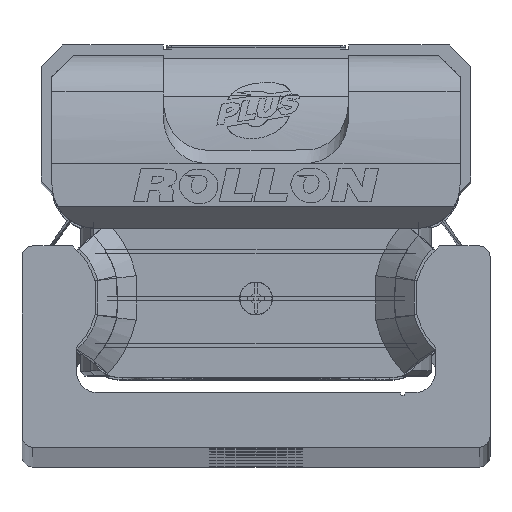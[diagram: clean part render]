
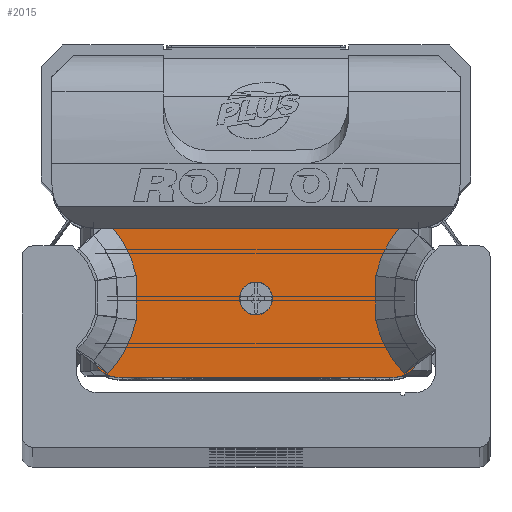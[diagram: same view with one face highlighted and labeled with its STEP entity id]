
A CAD part, top view. The second image highlights one B-rep face of the part: STEP entity #2015.
In plain terms, the highlighted planar face has unit normal (0, 0, 1) as drawn and (0, 0, -1) by its records, which use the part's own axes.
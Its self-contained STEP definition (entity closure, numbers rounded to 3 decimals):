
#2015 = ADVANCED_FACE( '', ( #4201, #4202 ), #4203, .F. );
#4201 = FACE_BOUND( '', #6561, .T. );
#4202 = FACE_OUTER_BOUND( '', #6562, .T. );
#4203 = PLANE( '', #6563 );
#6561 = EDGE_LOOP( '', ( #11852 ) );
#6562 = EDGE_LOOP( '', ( #11853, #11854, #11855, #11856, #11857, #11858, #11859, #11860, #11861, #11862, #11863, #11864 ) );
#6563 = AXIS2_PLACEMENT_3D( '', #11865, #11866, #11867 );
#11852 = ORIENTED_EDGE( '', *, *, #14401, .T. );
#11853 = ORIENTED_EDGE( '', *, *, #13040, .T. );
#11854 = ORIENTED_EDGE( '', *, *, #13685, .F. );
#11855 = ORIENTED_EDGE( '', *, *, #14650, .T. );
#11856 = ORIENTED_EDGE( '', *, *, #14532, .F. );
#11857 = ORIENTED_EDGE( '', *, *, #14334, .T. );
#11858 = ORIENTED_EDGE( '', *, *, #12613, .T. );
#11859 = ORIENTED_EDGE( '', *, *, #13014, .T. );
#11860 = ORIENTED_EDGE( '', *, *, #12953, .T. );
#11861 = ORIENTED_EDGE( '', *, *, #14587, .T. );
#11862 = ORIENTED_EDGE( '', *, *, #13146, .T. );
#11863 = ORIENTED_EDGE( '', *, *, #14636, .T. );
#11864 = ORIENTED_EDGE( '', *, *, #14044, .T. );
#11865 = CARTESIAN_POINT( '', ( 14.9, 7.35, -13.25 ) );
#11866 = DIRECTION( '', ( 0., 0., 1. ) );
#11867 = DIRECTION( '', ( 1., 0., 0. ) );
#12613 = EDGE_CURVE( '', #14934, #14932, #14935, .T. );
#12953 = EDGE_CURVE( '', #15535, #15532, #15536, .T. );
#13014 = EDGE_CURVE( '', #14932, #15535, #15635, .T. );
#13040 = EDGE_CURVE( '', #15679, #15677, #15680, .T. );
#13146 = EDGE_CURVE( '', #15847, #15853, #15855, .T. );
#13685 = EDGE_CURVE( '', #16718, #15677, #16720, .T. );
#14044 = EDGE_CURVE( '', #17217, #15679, #17218, .T. );
#14334 = EDGE_CURVE( '', #14902, #14934, #17599, .T. );
#14401 = EDGE_CURVE( '', #17682, #17682, #17683, .T. );
#14532 = EDGE_CURVE( '', #14902, #17837, #17838, .T. );
#14587 = EDGE_CURVE( '', #15532, #15847, #17899, .T. );
#14636 = EDGE_CURVE( '', #15853, #17217, #17955, .T. );
#14650 = EDGE_CURVE( '', #16718, #17837, #17971, .T. );
#14902 = VERTEX_POINT( '', #18304 );
#14932 = VERTEX_POINT( '', #18346 );
#14934 = VERTEX_POINT( '', #18349 );
#14935 = B_SPLINE_CURVE_WITH_KNOTS( '', 2, ( #18350, #18351, #18352, #18353, #18354 ), .UNSPECIFIED., .F., .F., ( 3, 2, 3 ), ( 0., 0.5, 1. ), .UNSPECIFIED. );
#15532 = VERTEX_POINT( '', #19185 );
#15535 = VERTEX_POINT( '', #19191 );
#15536 = B_SPLINE_CURVE_WITH_KNOTS( '', 2, ( #19192, #19193, #19194, #19195, #19196 ), .UNSPECIFIED., .F., .F., ( 3, 2, 3 ), ( 0., 0.5, 0.868 ), .UNSPECIFIED. );
#15635 = B_SPLINE_CURVE_WITH_KNOTS( '', 2, ( #19345, #19346, #19347 ), .UNSPECIFIED., .F., .F., ( 3, 3 ), ( 0., 1. ), .UNSPECIFIED. );
#15677 = VERTEX_POINT( '', #19401 );
#15679 = VERTEX_POINT( '', #19404 );
#15680 = B_SPLINE_CURVE_WITH_KNOTS( '', 1, ( #19405, #19406 ), .UNSPECIFIED., .F., .F., ( 2, 2 ), ( 0., 1. ), .UNSPECIFIED. );
#15847 = VERTEX_POINT( '', #19638 );
#15853 = VERTEX_POINT( '', #19651 );
#15855 = B_SPLINE_CURVE_WITH_KNOTS( '', 2, ( #19654, #19655, #19656, #19657, #19658 ), .UNSPECIFIED., .F., .F., ( 3, 2, 3 ), ( 0.133, 0.5, 1. ), .UNSPECIFIED. );
#16718 = VERTEX_POINT( '', #20799 );
#16720 = CIRCLE( '', #20802, 2.5 );
#17217 = VERTEX_POINT( '', #21495 );
#17218 = B_SPLINE_CURVE_WITH_KNOTS( '', 2, ( #21496, #21497, #21498, #21499, #21500 ), .UNSPECIFIED., .F., .F., ( 3, 2, 3 ), ( 0., 0.5, 1. ), .UNSPECIFIED. );
#17599 = B_SPLINE_CURVE_WITH_KNOTS( '', 1, ( #22162, #22163 ), .UNSPECIFIED., .F., .F., ( 2, 2 ), ( 0., 1. ), .UNSPECIFIED. );
#17682 = VERTEX_POINT( '', #22271 );
#17683 = CIRCLE( '', #22272, 1.5 );
#17837 = VERTEX_POINT( '', #22461 );
#17838 = CIRCLE( '', #22462, 2.5 );
#17899 = LINE( '', #22537, #22538 );
#17955 = B_SPLINE_CURVE_WITH_KNOTS( '', 2, ( #22603, #22604, #22605 ), .UNSPECIFIED., .F., .F., ( 3, 3 ), ( 0., 1. ), .UNSPECIFIED. );
#17971 = LINE( '', #22624, #22625 );
#18304 = CARTESIAN_POINT( '', ( -14.904, -5.718, -13.25 ) );
#18346 = CARTESIAN_POINT( '', ( -11.012, -2.045, -13.25 ) );
#18349 = CARTESIAN_POINT( '', ( -13.628, -6.965, -13.25 ) );
#18350 = CARTESIAN_POINT( '', ( -13.628, -6.965, -13.25 ) );
#18351 = CARTESIAN_POINT( '', ( -12.638, -5.946, -13.25 ) );
#18352 = CARTESIAN_POINT( '', ( -11.97, -4.691, -13.25 ) );
#18353 = CARTESIAN_POINT( '', ( -11.303, -3.437, -13.25 ) );
#18354 = CARTESIAN_POINT( '', ( -11.012, -2.045, -13.25 ) );
#19185 = CARTESIAN_POINT( '', ( -13.119, 6.4, -13.25 ) );
#19191 = CARTESIAN_POINT( '', ( -11.012, 2.045, -13.25 ) );
#19192 = CARTESIAN_POINT( '', ( -11.012, 2.045, -13.25 ) );
#19193 = CARTESIAN_POINT( '', ( -11.302, 3.432, -13.25 ) );
#19194 = CARTESIAN_POINT( '', ( -11.967, 4.685, -13.25 ) );
#19195 = CARTESIAN_POINT( '', ( -12.456, 5.606, -13.25 ) );
#19196 = CARTESIAN_POINT( '', ( -13.119, 6.4, -13.25 ) );
#19345 = CARTESIAN_POINT( '', ( -11.012, -2.045, -13.25 ) );
#19346 = CARTESIAN_POINT( '', ( -10.888, 0., -13.25 ) );
#19347 = CARTESIAN_POINT( '', ( -11.012, 2.045, -13.25 ) );
#19401 = CARTESIAN_POINT( '', ( 14.906, -5.717, -13.25 ) );
#19404 = CARTESIAN_POINT( '', ( 13.628, -6.965, -13.25 ) );
#19405 = CARTESIAN_POINT( '', ( 13.628, -6.965, -13.25 ) );
#19406 = CARTESIAN_POINT( '', ( 14.9, -5.728, -13.25 ) );
#19638 = CARTESIAN_POINT( '', ( 13.12, 6.4, -13.25 ) );
#19651 = CARTESIAN_POINT( '', ( 11.012, 2.045, -13.25 ) );
#19654 = CARTESIAN_POINT( '', ( 13.119, 6.4, -13.25 ) );
#19655 = CARTESIAN_POINT( '', ( 12.459, 5.608, -13.25 ) );
#19656 = CARTESIAN_POINT( '', ( 11.968, 4.684, -13.25 ) );
#19657 = CARTESIAN_POINT( '', ( 11.301, 3.427, -13.25 ) );
#19658 = CARTESIAN_POINT( '', ( 11.012, 2.045, -13.25 ) );
#20799 = CARTESIAN_POINT( '', ( 12.58, -7.3, -13.25 ) );
#20802 = AXIS2_PLACEMENT_3D( '', #24378, #24379, #24380 );
#21495 = CARTESIAN_POINT( '', ( 11.012, -2.045, -13.25 ) );
#21496 = CARTESIAN_POINT( '', ( 11.012, -2.045, -13.25 ) );
#21497 = CARTESIAN_POINT( '', ( 11.301, -3.43, -13.25 ) );
#21498 = CARTESIAN_POINT( '', ( 11.972, -4.69, -13.25 ) );
#21499 = CARTESIAN_POINT( '', ( 12.642, -5.95, -13.25 ) );
#21500 = CARTESIAN_POINT( '', ( 13.628, -6.965, -13.25 ) );
#22162 = CARTESIAN_POINT( '', ( -14.915, -5.713, -13.25 ) );
#22163 = CARTESIAN_POINT( '', ( -13.628, -6.965, -13.25 ) );
#22271 = CARTESIAN_POINT( '', ( 1.5, -0.05, -13.25 ) );
#22272 = AXIS2_PLACEMENT_3D( '', #25168, #25169, #25170 );
#22461 = CARTESIAN_POINT( '', ( -12.58, -7.3, -13.25 ) );
#22462 = AXIS2_PLACEMENT_3D( '', #25310, #25311, #25312 );
#22537 = CARTESIAN_POINT( '', ( 14.9, 6.4, -13.25 ) );
#22538 = VECTOR( '', #25357, 1000. );
#22603 = CARTESIAN_POINT( '', ( 11.012, 2.045, -13.25 ) );
#22604 = CARTESIAN_POINT( '', ( 10.888, 0., -13.25 ) );
#22605 = CARTESIAN_POINT( '', ( 11.012, -2.045, -13.25 ) );
#22624 = CARTESIAN_POINT( '', ( 12.58, -7.3, -13.25 ) );
#22625 = VECTOR( '', #25424, 1000. );
#24378 = CARTESIAN_POINT( '', ( 12.58, -4.8, -13.25 ) );
#24379 = DIRECTION( '', ( 0., 0., 1. ) );
#24380 = DIRECTION( '', ( 1., 0., 0. ) );
#25168 = CARTESIAN_POINT( '', ( 0., -0.05, -13.25 ) );
#25169 = DIRECTION( '', ( 0., 0., 1. ) );
#25170 = DIRECTION( '', ( 1., 0., 0. ) );
#25310 = CARTESIAN_POINT( '', ( -12.58, -4.8, -13.25 ) );
#25311 = DIRECTION( '', ( 0., 0., 1. ) );
#25312 = DIRECTION( '', ( 1., 0., 0. ) );
#25357 = DIRECTION( '', ( 1., 0., 0. ) );
#25424 = DIRECTION( '', ( -1., 0., 0. ) );
